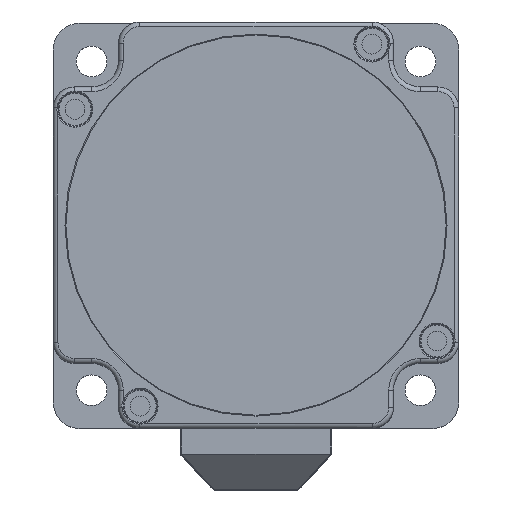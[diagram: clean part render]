
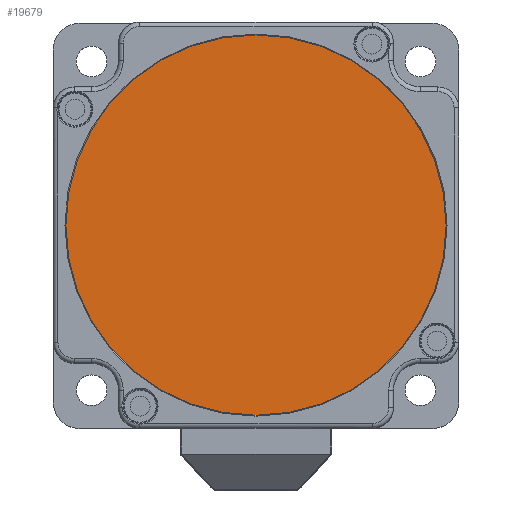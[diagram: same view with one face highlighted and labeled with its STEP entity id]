
A CAD part, top view. The second image highlights one B-rep face of the part: STEP entity #19679.
In plain terms, the highlighted planar face has unit normal (0, 0, 1) as drawn and (0, 0, -1) by its records, which use the part's own axes.
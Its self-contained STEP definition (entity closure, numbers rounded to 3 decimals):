
#15685=CARTESIAN_POINT('',(0.,0.,0.4));
#15686=DIRECTION('',(0.,0.,-1.));
#15687=DIRECTION('',(-1.,0.,0.));
#15688=AXIS2_PLACEMENT_3D('',#15685,#15686,#15687);
#15690=CARTESIAN_POINT('',(0.,0.,0.4));
#15691=DIRECTION('',(0.,0.,-1.));
#15692=DIRECTION('',(1.,0.,0.));
#15693=AXIS2_PLACEMENT_3D('',#15690,#15691,#15692);
#16434=CARTESIAN_POINT('',(40.25,0.,0.4));
#16435=VERTEX_POINT('',#16434);
#16436=CARTESIAN_POINT('',(-40.25,0.,0.4));
#16437=VERTEX_POINT('',#16436);
#19669=CARTESIAN_POINT('',(0.,0.,0.4));
#19670=DIRECTION('',(0.,0.,-1.));
#19671=DIRECTION('',(-1.,0.,0.));
#19672=AXIS2_PLACEMENT_3D('',#19669,#19670,#19671);
#19673=PLANE('',#19672);
#19675=ORIENTED_EDGE('',*,*,#19674,.F.);
#19676=ORIENTED_EDGE('',*,*,#19659,.F.);
#19677=EDGE_LOOP('',(#19675,#19676));
#19678=FACE_OUTER_BOUND('',#19677,.F.);
#19679=ADVANCED_FACE('',(#19678),#19673,.T.);
#15689=CIRCLE('',#15688,40.25);
#15694=CIRCLE('',#15693,40.25);
#19659=EDGE_CURVE('',#16435,#16437,#15694,.T.);
#19674=EDGE_CURVE('',#16437,#16435,#15689,.T.);
